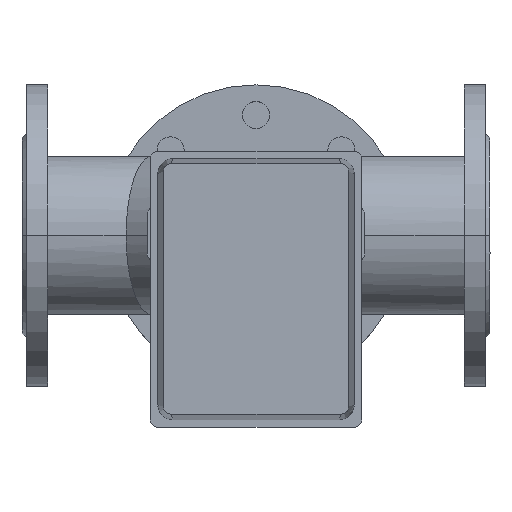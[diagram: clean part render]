
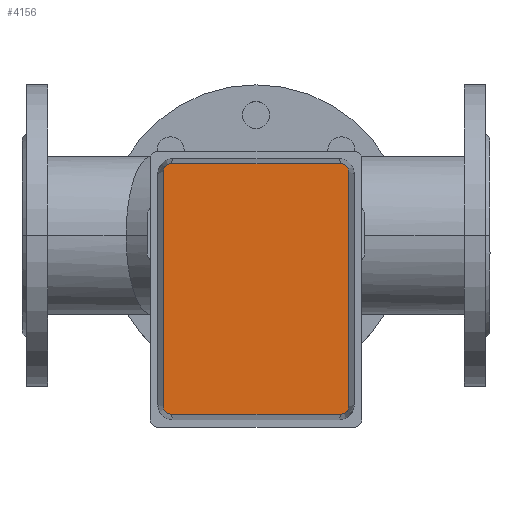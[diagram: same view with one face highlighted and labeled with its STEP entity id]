
A CAD part, top view. The second image highlights one B-rep face of the part: STEP entity #4156.
In plain terms, the highlighted planar face has unit normal (0, 0, 1).
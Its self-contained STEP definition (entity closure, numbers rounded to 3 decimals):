
#370=LINE('',#7555,#624);
#371=LINE('',#7559,#625);
#372=LINE('',#7563,#626);
#373=LINE('',#7567,#627);
#624=VECTOR('',#5710,304.8);
#625=VECTOR('',#5713,304.8);
#626=VECTOR('',#5716,304.8);
#627=VECTOR('',#5719,304.8);
#1034=FACE_OUTER_BOUND('',#1314,.T.);
#1314=EDGE_LOOP('',(#3384,#3385,#3386,#3387,#3388,#3389,#3390,#3391));
#1598=CIRCLE('',#4616,5.);
#1599=CIRCLE('',#4617,5.);
#1600=CIRCLE('',#4618,5.);
#1601=CIRCLE('',#4619,5.);
#1928=VERTEX_POINT('',#7553);
#1929=VERTEX_POINT('',#7554);
#1930=VERTEX_POINT('',#7556);
#1931=VERTEX_POINT('',#7558);
#1932=VERTEX_POINT('',#7560);
#1933=VERTEX_POINT('',#7562);
#1934=VERTEX_POINT('',#7564);
#1935=VERTEX_POINT('',#7566);
#2428=EDGE_CURVE('',#1928,#1929,#370,.T.);
#2429=EDGE_CURVE('',#1929,#1930,#1598,.T.);
#2430=EDGE_CURVE('',#1930,#1931,#371,.T.);
#2431=EDGE_CURVE('',#1931,#1932,#1599,.T.);
#2432=EDGE_CURVE('',#1932,#1933,#372,.T.);
#2433=EDGE_CURVE('',#1933,#1934,#1600,.T.);
#2434=EDGE_CURVE('',#1934,#1935,#373,.T.);
#2435=EDGE_CURVE('',#1935,#1928,#1601,.T.);
#3384=ORIENTED_EDGE('',*,*,#2428,.T.);
#3385=ORIENTED_EDGE('',*,*,#2429,.T.);
#3386=ORIENTED_EDGE('',*,*,#2430,.T.);
#3387=ORIENTED_EDGE('',*,*,#2431,.T.);
#3388=ORIENTED_EDGE('',*,*,#2432,.T.);
#3389=ORIENTED_EDGE('',*,*,#2433,.T.);
#3390=ORIENTED_EDGE('',*,*,#2434,.T.);
#3391=ORIENTED_EDGE('',*,*,#2435,.T.);
#3708=PLANE('',#4615);
#4156=ADVANCED_FACE('',(#1034),#3708,.T.);
#4615=AXIS2_PLACEMENT_3D('',#7552,#5708,#5709);
#4616=AXIS2_PLACEMENT_3D('',#7557,#5711,#5712);
#4617=AXIS2_PLACEMENT_3D('',#7561,#5714,#5715);
#4618=AXIS2_PLACEMENT_3D('',#7565,#5717,#5718);
#4619=AXIS2_PLACEMENT_3D('',#7568,#5720,#5721);
#5708=DIRECTION('center_axis',(0.,0.,1.));
#5709=DIRECTION('ref_axis',(0.,-1.,0.));
#5710=DIRECTION('',(0.,-1.,0.));
#5711=DIRECTION('center_axis',(0.,0.,1.));
#5712=DIRECTION('ref_axis',(1.,0.,0.));
#5713=DIRECTION('',(1.,0.,0.));
#5714=DIRECTION('center_axis',(0.,0.,1.));
#5715=DIRECTION('ref_axis',(1.,0.,0.));
#5716=DIRECTION('',(0.,1.,0.));
#5717=DIRECTION('center_axis',(0.,0.,1.));
#5718=DIRECTION('ref_axis',(1.,0.,0.));
#5719=DIRECTION('',(-1.,0.,0.));
#5720=DIRECTION('center_axis',(0.,0.,1.));
#5721=DIRECTION('ref_axis',(1.,0.,0.));
#7552=CARTESIAN_POINT('Origin',(-36.469,0.,
506.));
#7553=CARTESIAN_POINT('',(-119.36,56.4,506.));
#7554=CARTESIAN_POINT('',(-119.36,-56.4,506.));
#7555=CARTESIAN_POINT('',(-119.36,-56.4,506.));
#7556=CARTESIAN_POINT('',(-114.36,-61.4,506.));
#7557=CARTESIAN_POINT('Origin',(-114.36,-56.4,506.));
#7558=CARTESIAN_POINT('',(41.421,-61.4,506.));
#7559=CARTESIAN_POINT('',(41.421,-61.4,506.));
#7560=CARTESIAN_POINT('',(46.421,-56.4,506.));
#7561=CARTESIAN_POINT('Origin',(41.421,-56.4,506.));
#7562=CARTESIAN_POINT('',(46.421,56.4,506.));
#7563=CARTESIAN_POINT('',(46.421,56.4,506.));
#7564=CARTESIAN_POINT('',(41.421,61.4,506.));
#7565=CARTESIAN_POINT('Origin',(41.421,56.4,506.));
#7566=CARTESIAN_POINT('',(-114.36,61.4,506.));
#7567=CARTESIAN_POINT('',(-114.36,61.4,506.));
#7568=CARTESIAN_POINT('Origin',(-114.36,56.4,506.));
